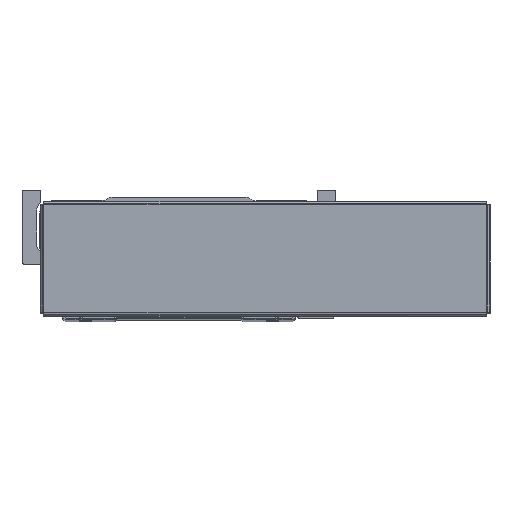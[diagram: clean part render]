
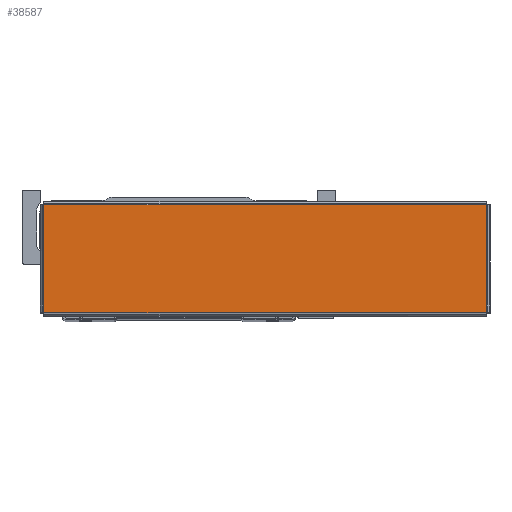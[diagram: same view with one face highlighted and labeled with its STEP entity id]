
A CAD part, top view. The second image highlights one B-rep face of the part: STEP entity #38587.
In plain terms, the highlighted planar face has unit normal (0, 0, 1) as drawn and (0, -1, 0) by its records, which use the part's own axes.
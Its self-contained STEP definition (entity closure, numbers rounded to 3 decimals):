
#782 = CARTESIAN_POINT ( 'NONE',  ( -128.393, -1.2, -31.363 ) ) ;
#854 = DIRECTION ( 'NONE',  ( 1., 0., 0. ) ) ;
#875 = CARTESIAN_POINT ( 'NONE',  ( 128.393, -1.2, 31.363 ) ) ;
#898 = DIRECTION ( 'NONE',  ( -1., 0., 0. ) ) ;
#900 = DIRECTION ( 'NONE',  ( 0., 0., -1. ) ) ;
#943 = CARTESIAN_POINT ( 'NONE',  ( -128.363, -1.2, 31.393 ) ) ;
#3116 = VERTEX_POINT ( 'NONE', #43653 ) ;
#3175 = VERTEX_POINT ( 'NONE', #43684 ) ;
#3199 = VERTEX_POINT ( 'NONE', #43701 ) ;
#3227 = VERTEX_POINT ( 'NONE', #43737 ) ;
#9664 = CARTESIAN_POINT ( 'NONE',  ( 128.363, -1.2, -31.393 ) ) ;
#9665 = DIRECTION ( 'NONE',  ( 0., 0., 1. ) ) ;
#12535 = AXIS2_PLACEMENT_3D ( 'NONE', #37738, #37718, #37710 ) ;
#19160 = VECTOR ( 'NONE', #900, 1000. ) ;
#19202 = LINE ( 'NONE', #943, #19160 ) ;
#19256 = LINE ( 'NONE', #782, #19292 ) ;
#19292 = VECTOR ( 'NONE', #854, 1000. ) ;
#19406 = LINE ( 'NONE', #875, #19487 ) ;
#19487 = VECTOR ( 'NONE', #898, 1000. ) ;
#19547 = VECTOR ( 'NONE', #9665, 1000. ) ;
#19721 = LINE ( 'NONE', #9664, #19547 ) ;
#27616 = EDGE_LOOP ( 'NONE', ( #28114, #28059, #28141, #28115 ) ) ;
#28059 = ORIENTED_EDGE ( 'NONE', *, *, #32279, .T. ) ;
#28114 = ORIENTED_EDGE ( 'NONE', *, *, #32287, .T. ) ;
#28115 = ORIENTED_EDGE ( 'NONE', *, *, #32365, .T. ) ;
#28141 = ORIENTED_EDGE ( 'NONE', *, *, #32257, .T. ) ;
#32257 = EDGE_CURVE ( 'NONE', #3199, #3175, #19256, .T. ) ;
#32279 = EDGE_CURVE ( 'NONE', #3227, #3199, #19202, .T. ) ;
#32287 = EDGE_CURVE ( 'NONE', #3116, #3227, #19406, .T. ) ;
#32365 = EDGE_CURVE ( 'NONE', #3175, #3116, #19721, .T. ) ;
#37710 = DIRECTION ( 'NONE',  ( 0., 0., 1. ) ) ;
#37718 = DIRECTION ( 'NONE',  ( 0., 1., 0. ) ) ;
#37738 = CARTESIAN_POINT ( 'NONE',  ( 0., -1.2, 0. ) ) ;
#37754 = PLANE ( 'NONE',  #12535 ) ;
#38587 = ADVANCED_FACE ( 'NONE', ( #39983 ), #37754, .F. ) ;
#39983 = FACE_OUTER_BOUND ( 'NONE', #27616, .T. ) ;
#43653 = CARTESIAN_POINT ( 'NONE',  ( 128.363, -1.2, 31.363 ) ) ;
#43684 = CARTESIAN_POINT ( 'NONE',  ( 128.363, -1.2, -31.363 ) ) ;
#43701 = CARTESIAN_POINT ( 'NONE',  ( -128.363, -1.2, -31.363 ) ) ;
#43737 = CARTESIAN_POINT ( 'NONE',  ( -128.363, -1.2, 31.363 ) ) ;
